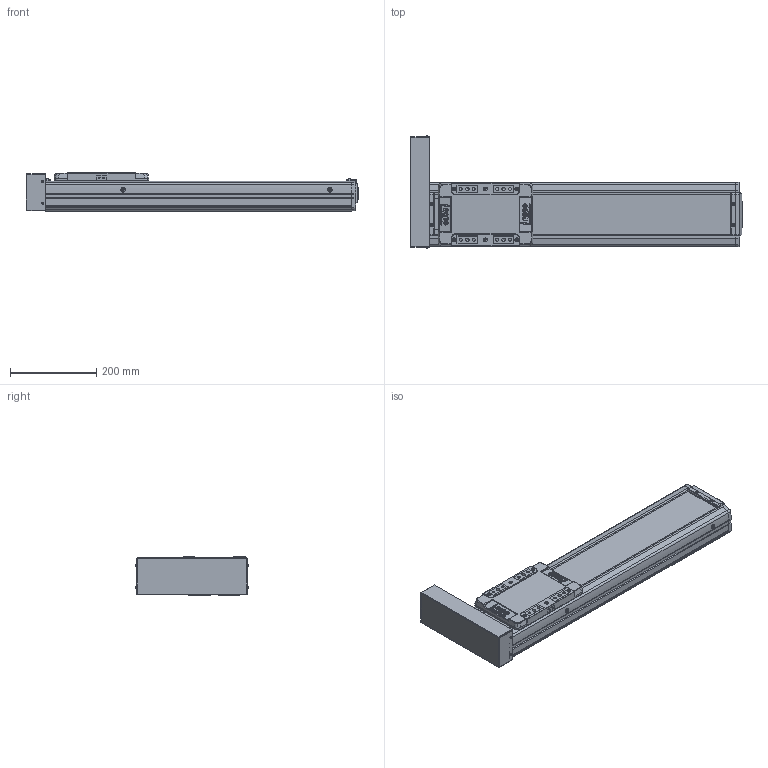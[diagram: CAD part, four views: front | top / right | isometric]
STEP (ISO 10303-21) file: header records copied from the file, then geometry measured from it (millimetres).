
FILE_DESCRIPTION(('STEP AP214'),'1');
FILE_NAME('Z:/Web/3D/SAN150/2013.04 (STP.)/SAN150ㅁㅁ-450PL.stp','2013-05-07T23:36:53',(' '),(' '),'Spatial InterOp 3D',' ',' ');
FILE_SCHEMA(('automotive_design'));
Length unit declared in the file: millimetre
Products named in the file (40): SLBL-SAN150; SLCV-SAN150; FHCS M4.0 x 8.0; BHCS M4.0 x 10.0; SFX-SAN150; RRCV-SAN150; FRBL-SAN150; Spacer; RN15; FRCV-SAN150; Screw 20; BASE-SAN150-000L ; SUS COVER; 스크루 : Round - M5.0 x 6.0; BHCS M3.0 x 6.0; P
Bounding box: 770 x 260.73 x 90 mm (x, y, z)
Volume: 5292368.4 mm3; surface area: 890766.7 mm2
Topology: 40 solids, 40 shells, 2101 faces, 5387 edges, 3432 vertices
Faces by surface type: plane 1027, cylinder 739, cone 242, sphere 60, bspline 21, torus 12
Entity records: 83020 total; most frequent: CARTESIAN_POINT 13402, DIRECTION 11432, ORIENTED_EDGE 10550, EDGE_CURVE 5275, AXIS2_PLACEMENT_3D 4117, VERTEX_POINT 3432, LINE 3198, VECTOR 3198
